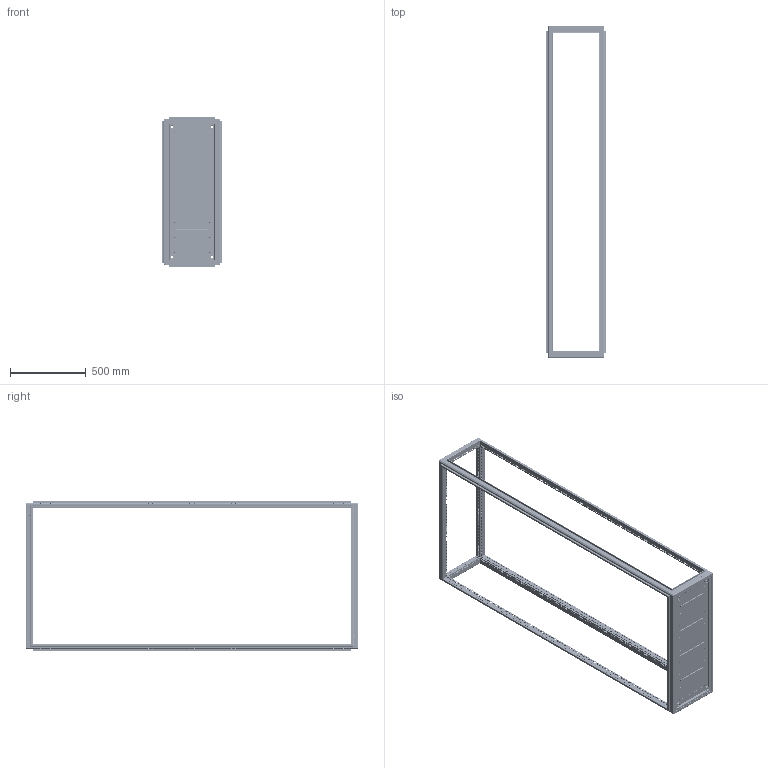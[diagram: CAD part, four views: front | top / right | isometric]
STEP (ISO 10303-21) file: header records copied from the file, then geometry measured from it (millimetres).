
FILE_DESCRIPTION(('STEP AP242'), '1');
FILE_NAME('ÊÑÊ.PRO.S.220.40.100 Êàðêàñ_ñåêöèîíèðîâàíèå', '', ('UNSPECIFIED'), ('UNSPECIFIED'), 'C3D Converter', 'C3D Toolkit', '');
FILE_SCHEMA(('AP242_MANAGED_MODEL_BASED_3D_ENGINEERING_MIM_LF { 1 0 10303 442 1 1 4 }'));
Length unit declared in the file: millimetre
Products named in the file (11): КСК.PRO.S.220.40.100; КСК.PRO.40.100; КСК.PRO.220; КСК.PRO.S.220; 2007.40.75; 2007.40.175; 2008.40.200
Assembly tree (29 placements, depth 2):
  КСК.PRO.S.220.40.100
    КСК.PRO.40.100
    КСК.PRO.220
    КСК.PRO.40.100
    КСК.PRO.220
    КСК.PRO.S.220
    КСК.PRO.S.220
    2007.40.75
    2007.40.175
    2008.40.200  x3
    (unnamed)  x18
Bounding box: 397 x 2197 x 997 mm (x, y, z)
Volume: 3741907.7 mm3; surface area: 4910620.6 mm2
Topology: 29 solids, 29 shells, 10043 faces, 28363 edges, 18601 vertices
Faces by surface type: plane 7101, cylinder 2344, cone 414, bspline 108, torus 44, sphere 32
Full cylindrical faces by diameter (mm): 3.242 x56, 4.134 x178, 4.5 x1522, 4.8 x18, 6 x56, 7 x178, 10.106 x4, 13.835 x4, 14 x4, 21.545 x4
Entity records: 334883 total; most frequent: CARTESIAN_POINT 54502, ORIENTED_EDGE 49238, DIRECTION 47960, EDGE_CURVE 24619, LINE 19902, VECTOR 19902, EDGE_LOOP 18148, VERTEX_POINT 17641
